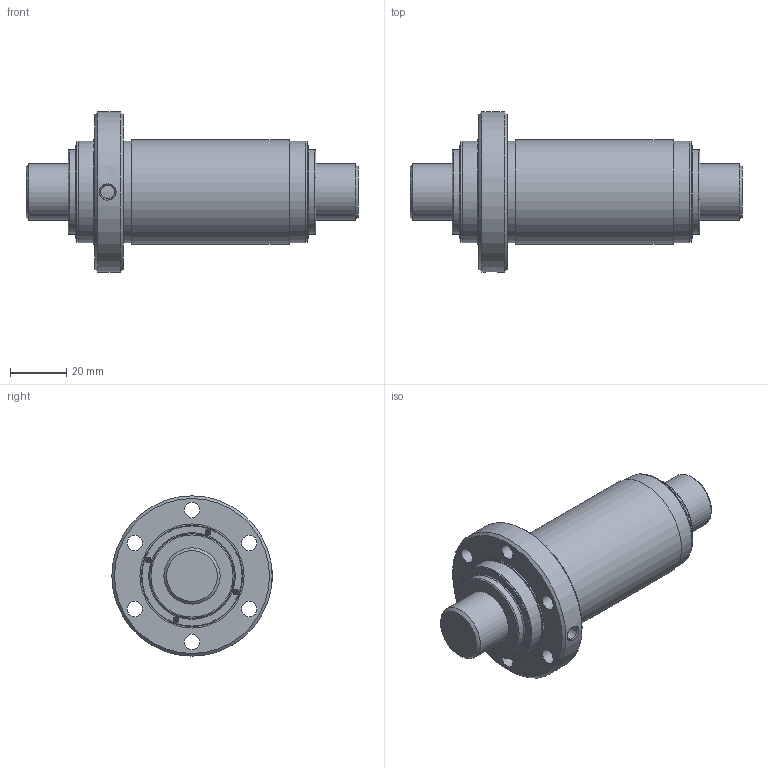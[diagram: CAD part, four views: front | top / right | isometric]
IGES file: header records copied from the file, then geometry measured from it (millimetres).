
Start section: Data from Parasolid IGES Translator 26.0.171, Copyright(c) 2006 Siemens PLM Software. All Rights Reserved.
Global section: file name: CNF2040-6ZZ+118LC7T_000_rev.igs; native system: By Siemens PLM Incorporated; preprocessor: XPlus GENERIC/IGES 26.0.171; author: Noname; organization: Noname; date: 20250611.064407; units: millimetre
Bounding box: 118 x 57 x 57 mm (x, y, z)
Surface area: 29486.5 mm2 (no closed solid volume)
Topology: 0 solids, 0 shells, 209 faces, 1058 edges, 976 vertices
Faces by surface type: extrusion 123, revolution 86
